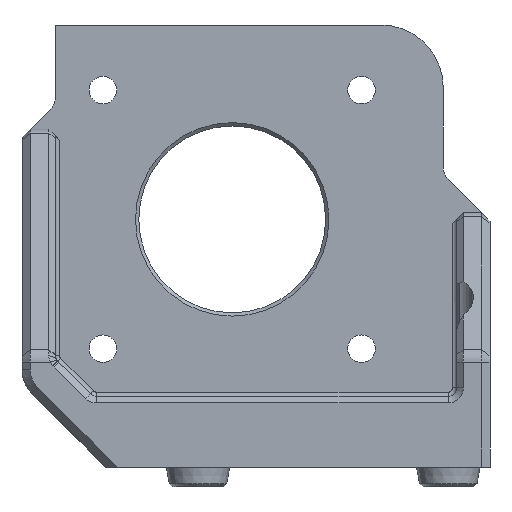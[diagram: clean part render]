
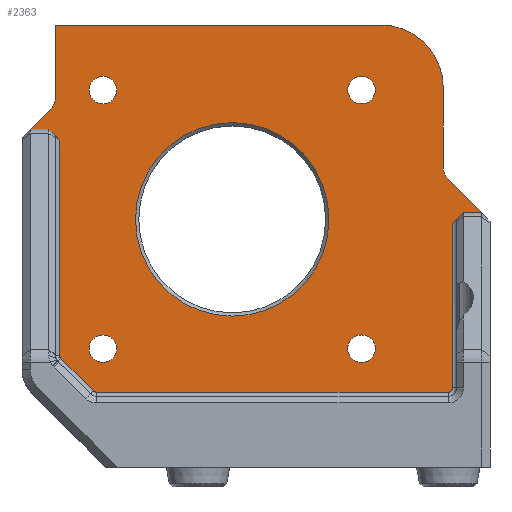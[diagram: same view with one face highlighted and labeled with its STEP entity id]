
A CAD part, front view. The second image highlights one B-rep face of the part: STEP entity #2363.
In plain terms, the highlighted planar face has unit normal (0, -1, 0).
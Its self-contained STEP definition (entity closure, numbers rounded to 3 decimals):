
#83=FACE_BOUND('',#402,.T.);
#84=FACE_BOUND('',#403,.T.);
#85=FACE_BOUND('',#404,.T.);
#86=FACE_BOUND('',#405,.T.);
#87=FACE_BOUND('',#406,.T.);
#141=PLANE('',#2555);
#242=FACE_OUTER_BOUND('',#401,.T.);
#401=EDGE_LOOP('',(#1698,#1699,#1700,#1701,#1702,#1703,#1704,#1705,#1706,
#1707,#1708,#1709,#1710,#1711,#1712,#1713,#1714,#1715,#1716));
#402=EDGE_LOOP('',(#1717));
#403=EDGE_LOOP('',(#1718));
#404=EDGE_LOOP('',(#1719));
#405=EDGE_LOOP('',(#1720));
#406=EDGE_LOOP('',(#1721));
#574=LINE('',#3589,#766);
#575=LINE('',#3591,#767);
#576=LINE('',#3593,#768);
#577=LINE('',#3597,#769);
#578=LINE('',#3601,#770);
#579=LINE('',#3603,#771);
#580=LINE('',#3607,#772);
#581=LINE('',#3609,#773);
#582=LINE('',#3611,#774);
#583=LINE('',#3613,#775);
#584=LINE('',#3617,#776);
#585=LINE('',#3621,#777);
#586=LINE('',#3624,#778);
#766=VECTOR('',#2886,10.);
#767=VECTOR('',#2887,10.);
#768=VECTOR('',#2888,10.);
#769=VECTOR('',#2891,10.);
#770=VECTOR('',#2894,10.);
#771=VECTOR('',#2895,10.);
#772=VECTOR('',#2898,10.);
#773=VECTOR('',#2899,10.);
#774=VECTOR('',#2900,10.);
#775=VECTOR('',#2901,10.);
#776=VECTOR('',#2904,10.);
#777=VECTOR('',#2907,10.);
#778=VECTOR('',#2910,10.);
#949=CIRCLE('',#2554,11.6);
#950=CIRCLE('',#2556,2.);
#951=CIRCLE('',#2557,7.5);
#952=CIRCLE('',#2558,2.);
#953=CIRCLE('',#2559,0.5);
#954=CIRCLE('',#2560,0.5);
#955=CIRCLE('',#2561,0.5);
#956=CIRCLE('',#2562,1.65);
#957=CIRCLE('',#2563,1.65);
#958=CIRCLE('',#2564,1.65);
#959=CIRCLE('',#2565,1.65);
#1084=VERTEX_POINT('',#3583);
#1085=VERTEX_POINT('',#3587);
#1086=VERTEX_POINT('',#3588);
#1087=VERTEX_POINT('',#3590);
#1088=VERTEX_POINT('',#3592);
#1089=VERTEX_POINT('',#3594);
#1090=VERTEX_POINT('',#3596);
#1091=VERTEX_POINT('',#3598);
#1092=VERTEX_POINT('',#3600);
#1093=VERTEX_POINT('',#3602);
#1094=VERTEX_POINT('',#3604);
#1095=VERTEX_POINT('',#3606);
#1096=VERTEX_POINT('',#3608);
#1097=VERTEX_POINT('',#3610);
#1098=VERTEX_POINT('',#3612);
#1099=VERTEX_POINT('',#3614);
#1100=VERTEX_POINT('',#3616);
#1101=VERTEX_POINT('',#3618);
#1102=VERTEX_POINT('',#3620);
#1103=VERTEX_POINT('',#3622);
#1104=VERTEX_POINT('',#3625);
#1105=VERTEX_POINT('',#3627);
#1106=VERTEX_POINT('',#3629);
#1107=VERTEX_POINT('',#3631);
#1310=EDGE_CURVE('',#1084,#1084,#949,.T.);
#1312=EDGE_CURVE('',#1085,#1086,#574,.F.);
#1313=EDGE_CURVE('',#1087,#1085,#575,.T.);
#1314=EDGE_CURVE('',#1087,#1088,#576,.F.);
#1315=EDGE_CURVE('',#1089,#1088,#950,.T.);
#1316=EDGE_CURVE('',#1089,#1090,#577,.T.);
#1317=EDGE_CURVE('',#1090,#1091,#951,.T.);
#1318=EDGE_CURVE('',#1092,#1091,#578,.T.);
#1319=EDGE_CURVE('',#1092,#1093,#579,.T.);
#1320=EDGE_CURVE('',#1094,#1093,#952,.T.);
#1321=EDGE_CURVE('',#1095,#1094,#580,.T.);
#1322=EDGE_CURVE('',#1096,#1095,#581,.T.);
#1323=EDGE_CURVE('',#1097,#1096,#582,.T.);
#1324=EDGE_CURVE('',#1098,#1097,#583,.T.);
#1325=EDGE_CURVE('',#1099,#1098,#953,.T.);
#1326=EDGE_CURVE('',#1100,#1099,#584,.T.);
#1327=EDGE_CURVE('',#1101,#1100,#954,.T.);
#1328=EDGE_CURVE('',#1102,#1101,#585,.T.);
#1329=EDGE_CURVE('',#1103,#1102,#955,.T.);
#1330=EDGE_CURVE('',#1086,#1103,#586,.T.);
#1331=EDGE_CURVE('',#1104,#1104,#956,.T.);
#1332=EDGE_CURVE('',#1105,#1105,#957,.T.);
#1333=EDGE_CURVE('',#1106,#1106,#958,.T.);
#1334=EDGE_CURVE('',#1107,#1107,#959,.T.);
#1698=ORIENTED_EDGE('',*,*,#1312,.F.);
#1699=ORIENTED_EDGE('',*,*,#1313,.F.);
#1700=ORIENTED_EDGE('',*,*,#1314,.T.);
#1701=ORIENTED_EDGE('',*,*,#1315,.F.);
#1702=ORIENTED_EDGE('',*,*,#1316,.T.);
#1703=ORIENTED_EDGE('',*,*,#1317,.T.);
#1704=ORIENTED_EDGE('',*,*,#1318,.F.);
#1705=ORIENTED_EDGE('',*,*,#1319,.T.);
#1706=ORIENTED_EDGE('',*,*,#1320,.F.);
#1707=ORIENTED_EDGE('',*,*,#1321,.F.);
#1708=ORIENTED_EDGE('',*,*,#1322,.F.);
#1709=ORIENTED_EDGE('',*,*,#1323,.F.);
#1710=ORIENTED_EDGE('',*,*,#1324,.F.);
#1711=ORIENTED_EDGE('',*,*,#1325,.F.);
#1712=ORIENTED_EDGE('',*,*,#1326,.F.);
#1713=ORIENTED_EDGE('',*,*,#1327,.F.);
#1714=ORIENTED_EDGE('',*,*,#1328,.F.);
#1715=ORIENTED_EDGE('',*,*,#1329,.F.);
#1716=ORIENTED_EDGE('',*,*,#1330,.F.);
#1717=ORIENTED_EDGE('',*,*,#1331,.T.);
#1718=ORIENTED_EDGE('',*,*,#1332,.T.);
#1719=ORIENTED_EDGE('',*,*,#1333,.T.);
#1720=ORIENTED_EDGE('',*,*,#1334,.T.);
#1721=ORIENTED_EDGE('',*,*,#1310,.F.);
#2363=ADVANCED_FACE('',(#242,#83,#84,#85,#86,#87),#141,.T.);
#2554=AXIS2_PLACEMENT_3D('',#3584,#2881,#2882);
#2555=AXIS2_PLACEMENT_3D('',#3586,#2884,#2885);
#2556=AXIS2_PLACEMENT_3D('',#3595,#2889,#2890);
#2557=AXIS2_PLACEMENT_3D('',#3599,#2892,#2893);
#2558=AXIS2_PLACEMENT_3D('',#3605,#2896,#2897);
#2559=AXIS2_PLACEMENT_3D('',#3615,#2902,#2903);
#2560=AXIS2_PLACEMENT_3D('',#3619,#2905,#2906);
#2561=AXIS2_PLACEMENT_3D('',#3623,#2908,#2909);
#2562=AXIS2_PLACEMENT_3D('',#3626,#2911,#2912);
#2563=AXIS2_PLACEMENT_3D('',#3628,#2913,#2914);
#2564=AXIS2_PLACEMENT_3D('',#3630,#2915,#2916);
#2565=AXIS2_PLACEMENT_3D('',#3632,#2917,#2918);
#2881=DIRECTION('center_axis',(0.,-1.,0.));
#2882=DIRECTION('ref_axis',(1.,0.,0.));
#2884=DIRECTION('center_axis',(0.,-1.,0.));
#2885=DIRECTION('ref_axis',(0.,0.,-1.));
#2886=DIRECTION('',(0.707,0.,0.707));
#2887=DIRECTION('',(-1.,0.,0.));
#2888=DIRECTION('',(0.707,0.,-0.707));
#2889=DIRECTION('center_axis',(0.,-1.,0.));
#2890=DIRECTION('ref_axis',(-0.924,0.,-0.383));
#2891=DIRECTION('',(0.,0.,1.));
#2892=DIRECTION('center_axis',(0.,-1.,0.));
#2893=DIRECTION('ref_axis',(1.,0.,0.));
#2894=DIRECTION('',(1.,0.,0.));
#2895=DIRECTION('',(0.,0.,-1.));
#2896=DIRECTION('center_axis',(0.,-1.,0.));
#2897=DIRECTION('ref_axis',(0.924,0.,-0.383));
#2898=DIRECTION('',(0.707,0.,0.707));
#2899=DIRECTION('',(-1.,0.,0.));
#2900=DIRECTION('',(-0.707,0.,0.707));
#2901=DIRECTION('',(0.,0.,1.));
#2902=DIRECTION('center_axis',(0.,1.,0.));
#2903=DIRECTION('ref_axis',(-0.924,0.,-0.383));
#2904=DIRECTION('',(-0.707,0.,0.707));
#2905=DIRECTION('center_axis',(0.,1.,0.));
#2906=DIRECTION('ref_axis',(-0.383,0.,-0.924));
#2907=DIRECTION('',(-1.,0.,0.));
#2908=DIRECTION('center_axis',(0.,1.,0.));
#2909=DIRECTION('ref_axis',(0.707,0.,-0.707));
#2910=DIRECTION('',(0.,0.,-1.));
#2911=DIRECTION('center_axis',(0.,1.,0.));
#2912=DIRECTION('ref_axis',(1.,0.,0.));
#2913=DIRECTION('center_axis',(0.,1.,0.));
#2914=DIRECTION('ref_axis',(1.,0.,0.));
#2915=DIRECTION('center_axis',(0.,1.,0.));
#2916=DIRECTION('ref_axis',(1.,0.,0.));
#2917=DIRECTION('center_axis',(0.,1.,0.));
#2918=DIRECTION('ref_axis',(1.,0.,0.));
#3583=CARTESIAN_POINT('',(-42.5,-5.7,72.575));
#3584=CARTESIAN_POINT('Origin',(-30.9,-5.7,72.575));
#3586=CARTESIAN_POINT('Origin',(-56.1,-5.7,95.875));
#3587=CARTESIAN_POINT('',(-3.2,-5.7,73.375));
#3588=CARTESIAN_POINT('',(-4.5,-5.7,72.075));
#3589=CARTESIAN_POINT('',(-11.,-5.7,65.575));
#3590=CARTESIAN_POINT('',(-1.,-5.7,73.375));
#3591=CARTESIAN_POINT('',(-28.05,-5.7,73.375));
#3592=CARTESIAN_POINT('',(-5.014,-5.7,77.39));
#3593=CARTESIAN_POINT('',(-21.55,-5.7,93.925));
#3594=CARTESIAN_POINT('',(-5.6,-5.7,78.804));
#3595=CARTESIAN_POINT('Origin',(-3.6,-5.7,78.804));
#3596=CARTESIAN_POINT('',(-5.6,-5.7,88.375));
#3597=CARTESIAN_POINT('',(-5.6,-5.7,84.625));
#3598=CARTESIAN_POINT('',(-13.1,-5.7,95.875));
#3599=CARTESIAN_POINT('Origin',(-13.1,-5.7,88.375));
#3600=CARTESIAN_POINT('',(-52.1,-5.7,95.875));
#3601=CARTESIAN_POINT('',(-56.1,-5.7,95.875));
#3602=CARTESIAN_POINT('',(-52.1,-5.7,87.204));
#3603=CARTESIAN_POINT('',(-52.1,-5.7,95.875));
#3604=CARTESIAN_POINT('',(-52.686,-5.7,85.79));
#3605=CARTESIAN_POINT('Origin',(-54.1,-5.7,87.204));
#3606=CARTESIAN_POINT('',(-55.1,-5.7,83.375));
#3607=CARTESIAN_POINT('',(-51.475,-5.7,87.));
#3608=CARTESIAN_POINT('',(-52.9,-5.7,83.375));
#3609=CARTESIAN_POINT('',(-56.1,-5.7,83.375));
#3610=CARTESIAN_POINT('',(-51.6,-5.7,82.075));
#3611=CARTESIAN_POINT('',(-56.625,-5.7,87.1));
#3612=CARTESIAN_POINT('',(-51.6,-5.7,56.29));
#3613=CARTESIAN_POINT('',(-51.6,-5.7,81.625));
#3614=CARTESIAN_POINT('',(-51.454,-5.7,55.936));
#3615=CARTESIAN_POINT('Origin',(-51.1,-5.7,56.29));
#3616=CARTESIAN_POINT('',(-47.539,-5.7,52.022));
#3617=CARTESIAN_POINT('',(-61.621,-5.7,66.104));
#3618=CARTESIAN_POINT('',(-47.186,-5.7,51.875));
#3619=CARTESIAN_POINT('Origin',(-47.186,-5.7,52.375));
#3620=CARTESIAN_POINT('',(-5.,-5.7,51.875));
#3621=CARTESIAN_POINT('',(-56.1,-5.7,51.875));
#3622=CARTESIAN_POINT('',(-4.5,-5.7,52.375));
#3623=CARTESIAN_POINT('Origin',(-5.,-5.7,52.375));
#3624=CARTESIAN_POINT('',(-4.5,-5.7,79.125));
#3625=CARTESIAN_POINT('',(-17.05,-5.7,88.075));
#3626=CARTESIAN_POINT('Origin',(-15.4,-5.7,88.075));
#3627=CARTESIAN_POINT('',(-48.05,-5.7,88.075));
#3628=CARTESIAN_POINT('Origin',(-46.4,-5.7,88.075));
#3629=CARTESIAN_POINT('',(-17.05,-5.7,57.075));
#3630=CARTESIAN_POINT('Origin',(-15.4,-5.7,57.075));
#3631=CARTESIAN_POINT('',(-48.05,-5.7,57.075));
#3632=CARTESIAN_POINT('Origin',(-46.4,-5.7,57.075));
